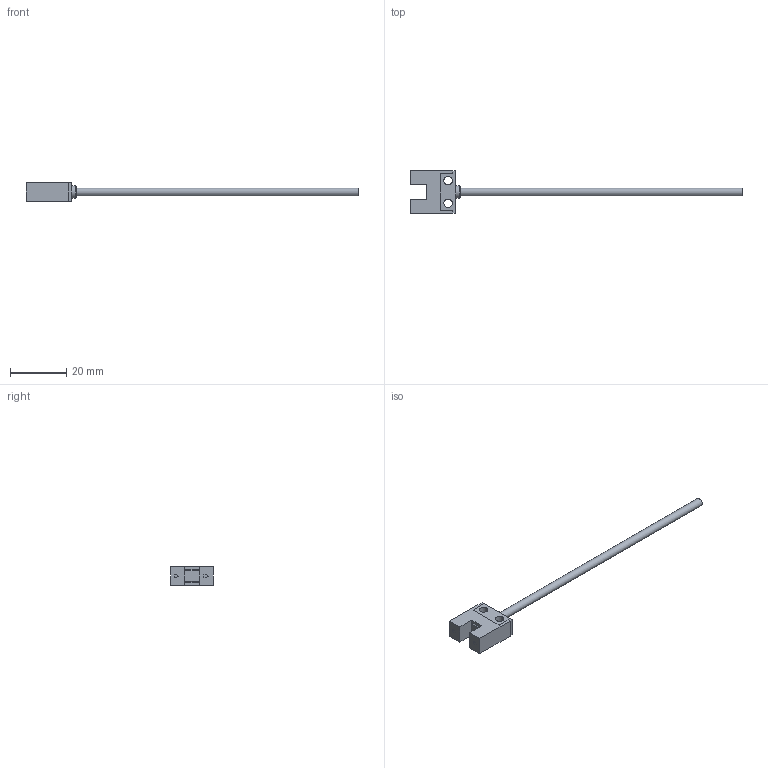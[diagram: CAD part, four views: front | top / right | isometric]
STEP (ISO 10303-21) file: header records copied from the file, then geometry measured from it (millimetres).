
FILE_DESCRIPTION(/* description */ (''),/* implementation_level */ '2;1');
FILE_NAME(/* name */ 'F:\HUAYIFENG\01)HUAYIFENG_宣传文件\01)HUAYIFENG_\X2\5BA34F2065874EF6\X0\_产品资料整合\03)产品3D文档\03)产品3D_槽型系列_K12_2019\03-04)LU24系列_3D\LU-U24_new(20210127).stp',/* time_stamp */ '2021-01-27T09:48:21+08:00',/* author */ ('fengjiarun'),/* organization */ (''),/* preprocessor_version */ 'ST-DEVELOPER v16.5',/* originating_system */ 'Autodesk Inventor 2017',/* authorisation */ '');
FILE_SCHEMA (('AUTOMOTIVE_DESIGN { 1 0 10303 214 3 1 1 }'));
Length unit declared in the file: millimetre
Products named in the file (1): LU-U24
Bounding box: 117.82 x 15.1 x 6.6 mm (x, y, z)
Volume: 1967.5 mm3; surface area: 1916.6 mm2
Topology: 1 solids, 1 shells, 49 faces, 128 edges, 85 vertices
Faces by surface type: plane 44, cylinder 4, torus 1
Full cylindrical faces by diameter (mm): 2.8 x1, 3 x2, 4.5 x1
Entity records: 1490 total; most frequent: CARTESIAN_POINT 258, ORIENTED_EDGE 246, DIRECTION 232, EDGE_CURVE 123, LINE 114, VECTOR 114, VERTEX_POINT 85, EDGE_LOOP 62
